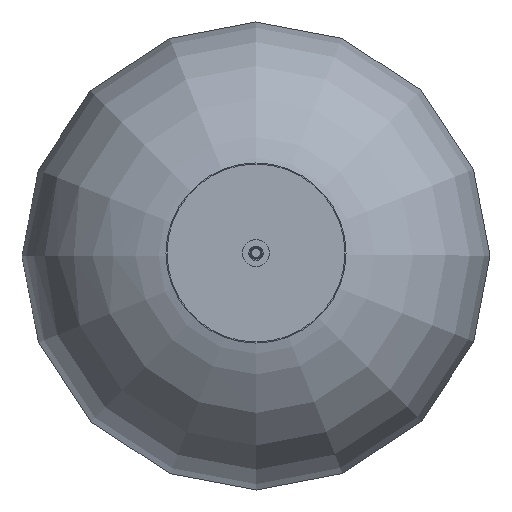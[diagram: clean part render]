
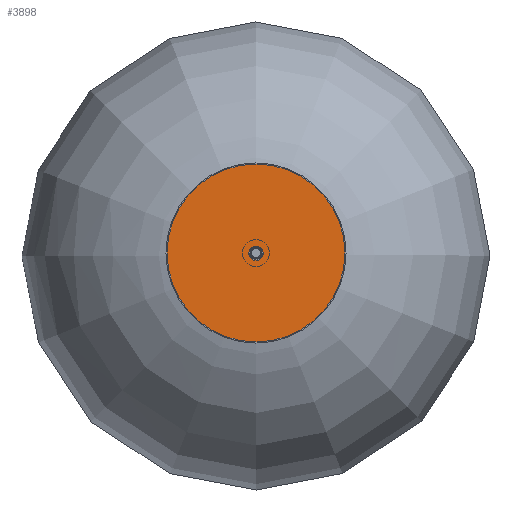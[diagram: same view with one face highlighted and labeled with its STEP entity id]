
A CAD part, top view. The second image highlights one B-rep face of the part: STEP entity #3898.
In plain terms, the highlighted planar face has unit normal (0, 0, 1).
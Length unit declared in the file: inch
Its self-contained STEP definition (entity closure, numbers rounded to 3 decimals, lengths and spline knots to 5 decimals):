
#37=FACE_BOUND('',#912,.T.);
#554=PLANE('',#4197);
#660=FACE_OUTER_BOUND('',#911,.T.);
#911=EDGE_LOOP('',(#2976));
#912=EDGE_LOOP('',(#2977));
#1122=CIRCLE('',#4192,0.2);
#1124=CIRCLE('',#4195,2.47);
#1729=VERTEX_POINT('',#9351);
#1731=VERTEX_POINT('',#9357);
#2189=EDGE_CURVE('',#1729,#1729,#1122,.T.);
#2192=EDGE_CURVE('',#1731,#1731,#1124,.F.);
#2976=ORIENTED_EDGE('',*,*,#2192,.T.);
#2977=ORIENTED_EDGE('',*,*,#2189,.T.);
#3898=ADVANCED_FACE('',(#660,#37),#554,.T.);
#4192=AXIS2_PLACEMENT_3D('',#9352,#4707,#4708);
#4195=AXIS2_PLACEMENT_3D('',#9358,#4714,#4715);
#4197=AXIS2_PLACEMENT_3D('',#9362,#4719,#4720);
#4707=DIRECTION('center_axis',(0.,0.,-1.));
#4708=DIRECTION('ref_axis',(1.,0.,0.));
#4714=DIRECTION('center_axis',(0.,0.,-1.));
#4715=DIRECTION('ref_axis',(1.,0.,0.));
#4719=DIRECTION('center_axis',(0.,0.,1.));
#4720=DIRECTION('ref_axis',(1.,0.,0.));
#9351=CARTESIAN_POINT('',(-0.19813,-0.00889,47.73));
#9352=CARTESIAN_POINT('Origin',(0.00187,-0.00889,
47.73));
#9357=CARTESIAN_POINT('',(-2.47,0.,47.73));
#9358=CARTESIAN_POINT('Origin',(0.,0.,47.73));
#9362=CARTESIAN_POINT('Origin',(0.,0.,47.73));
